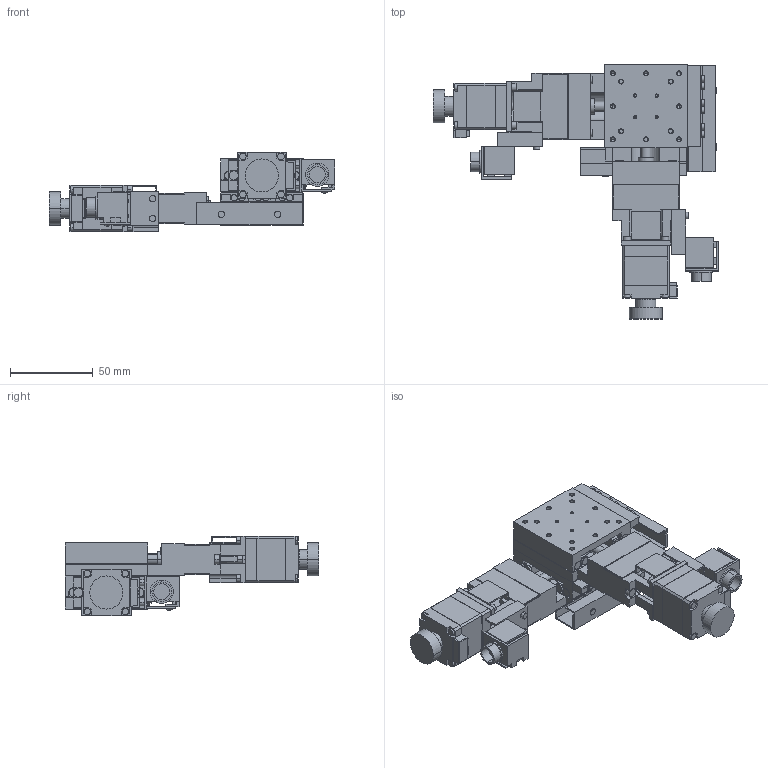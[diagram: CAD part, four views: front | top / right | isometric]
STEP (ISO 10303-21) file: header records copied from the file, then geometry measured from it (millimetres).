
FILE_DESCRIPTION(('STEP AP203'),'1');
FILE_NAME('C:/3D-Trans/3D_PMG513M-L□-C4+240122.step','2024-02-27T00:14:48',(' '),(' '),'Spatial InterOp 3D',' ',' ');
FILE_SCHEMA(('CONFIG_CONTROL_DESIGN'));
Length unit declared in the file: millimetre
Products named in the file (12): 1; 2; 3; 4; 5; 6; 7; 8; 9; 10; 11; 12
Bounding box: 172.5 x 153.5 x 48 mm (x, y, z)
Volume: 197489.3 mm3; surface area: 102970.4 mm2
Topology: 12 solids, 12 shells, 1560 faces, 4026 edges, 2556 vertices
Faces by surface type: plane 922, cylinder 478, cone 152, sphere 8
Entity records: 48058 total; most frequent: CARTESIAN_POINT 8546, DIRECTION 8326, ORIENTED_EDGE 7956, EDGE_CURVE 3978, AXIS2_PLACEMENT_3D 2808, LINE 2710, VECTOR 2710, VERTEX_POINT 2556
